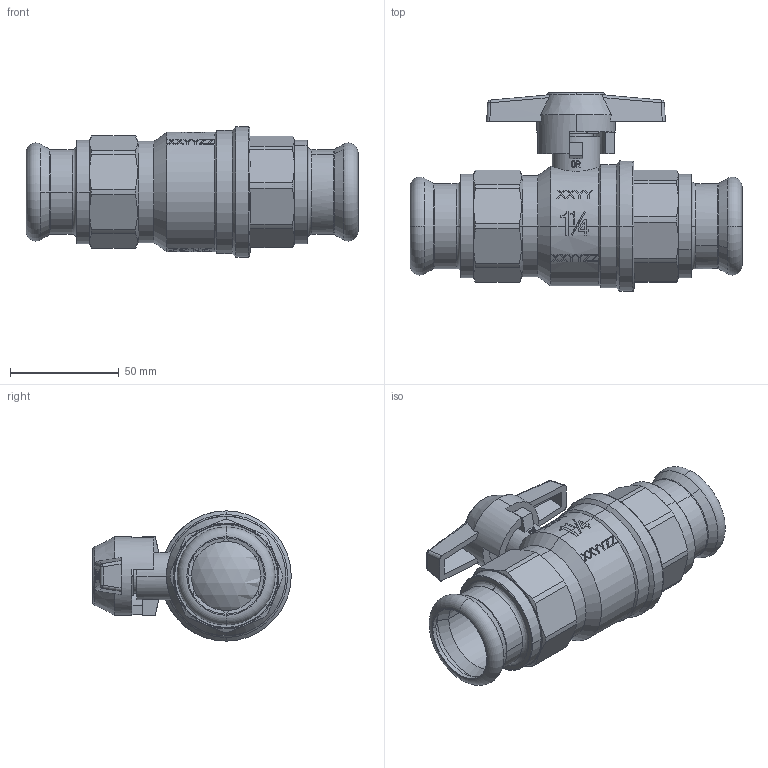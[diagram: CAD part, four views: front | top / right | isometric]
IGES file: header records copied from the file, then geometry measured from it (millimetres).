
Global section: file name: No Iges File Name specified; native system: AutoDesk Inventor R12.0; preprocessor: AutoDesk Inventor Iges Exporter R12.0; date: 20111122.165037; units: millimetre
Bounding box: 152.4 x 91.1 x 59.8 mm (x, y, z)
Volume: 86835.4 mm3; surface area: 81404.7 mm2
Topology: 1 solids, 9 shells, 950 faces, 2769 edges, 1911 vertices
Faces by surface type: plane 394, bspline 224, revolution 113, cylinder 98, cone 86, torus 26, sphere 9
